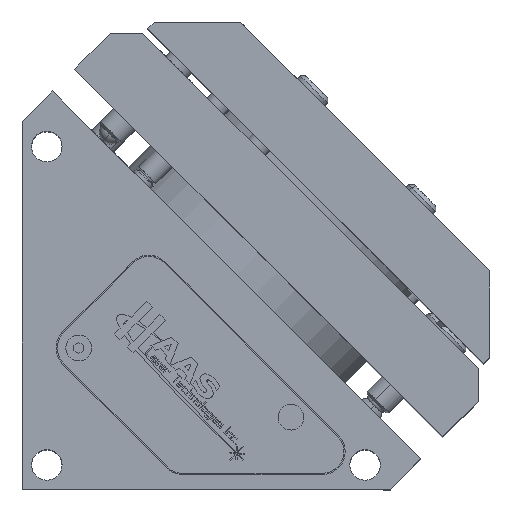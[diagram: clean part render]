
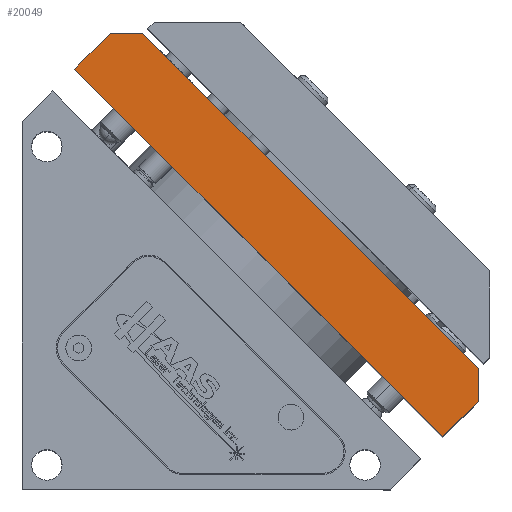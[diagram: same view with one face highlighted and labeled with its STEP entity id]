
A CAD part, top view. The second image highlights one B-rep face of the part: STEP entity #20049.
In plain terms, the highlighted planar face has unit normal (0, 0, 1).
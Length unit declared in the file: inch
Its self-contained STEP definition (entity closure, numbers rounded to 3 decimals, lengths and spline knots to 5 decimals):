
#54 = EDGE_CURVE ( 'Defeatured_21_13+Defeatured_21_10+Defeatured_21_6+Defeatured_21_8', #18490, #11923, #1252, .T. ) ;
#1017 = DIRECTION ( 'NONE',  ( -0.707, 0.707, 0. ) ) ;
#1145 = ORIENTED_EDGE ( 'NONE', *, *, #8355, .T. ) ;
#1252 = LINE ( 'NONE', #7275, #17940 ) ;
#1745 = CARTESIAN_POINT ( 'NONE',  ( 0.7195, 3.7247, 1.469 ) ) ;
#3298 = DIRECTION ( 'NONE',  ( 0., 1., 0. ) ) ;
#3431 = LINE ( 'NONE', #16114, #26921 ) ;
#3573 = CARTESIAN_POINT ( 'NONE',  ( 0.98466, 3.7247, 1.469 ) ) ;
#3827 = EDGE_LOOP ( 'NONE', ( #11283, #17456, #1145, #24200, #3928, #16271 ) ) ;
#3928 = ORIENTED_EDGE ( 'NONE', *, *, #27788, .F. ) ;
#4727 = CARTESIAN_POINT ( 'NONE',  ( 0.85208, 3.85728, 1.469 ) ) ;
#5319 = DIRECTION ( 'NONE',  ( -1., 0., 0. ) ) ;
#6684 = EDGE_CURVE ( 'Defeatured_21_7+Defeatured_21_13+Defeatured_21_9+Defeatured_21_11', #21052, #6820, #21111, .T. ) ;
#6820 = VERTEX_POINT ( 'NONE', #1745 ) ;
#7266 = VECTOR ( 'NONE', #27987, 39.37008 ) ;
#7275 = CARTESIAN_POINT ( 'NONE',  ( 3.7247, 0.98466, 1.469 ) ) ;
#7824 = DIRECTION ( 'NONE',  ( -0.707, -0.707, 0. ) ) ;
#7848 = VECTOR ( 'NONE', #5319, 39.37008 ) ;
#8055 = EDGE_CURVE ( 'Defeatured_21_6+Defeatured_21_13+Defeatured_21_10+Defeatured_21_9', #18490, #27606, #3431, .T. ) ;
#8355 = EDGE_CURVE ( 'Defeatured_21_13+Defeatured_21_11+Defeatured_21_8+Defeatured_21_7', #26967, #6820, #9200, .T. ) ;
#9092 = CARTESIAN_POINT ( 'NONE',  ( 3.7247, 0.7195, 1.469 ) ) ;
#9200 = LINE ( 'NONE', #27236, #7848 ) ;
#9210 = CARTESIAN_POINT ( 'NONE',  ( 3.43302, 0.42781, 1.469 ) ) ;
#10733 = PLANE ( 'NONE',  #17558 ) ;
#11283 = ORIENTED_EDGE ( 'NONE', *, *, #54, .T. ) ;
#11452 = DIRECTION ( 'NONE',  ( 0.707, 0.707, 0. ) ) ;
#11923 = VERTEX_POINT ( 'NONE', #17667 ) ;
#14146 = FACE_OUTER_BOUND ( 'NONE', #3827, .T. ) ;
#15040 = CARTESIAN_POINT ( 'NONE',  ( 0.42781, 3.43302, 1.469 ) ) ;
#15296 = EDGE_CURVE ( 'Defeatured_21_13+Defeatured_21_8+Defeatured_21_10+Defeatured_21_11', #11923, #26967, #16742, .T. ) ;
#16114 = CARTESIAN_POINT ( 'NONE',  ( 3.85728, 0.85208, 1.469 ) ) ;
#16271 = ORIENTED_EDGE ( 'NONE', *, *, #8055, .F. ) ;
#16742 = LINE ( 'NONE', #18342, #22536 ) ;
#16809 = LINE ( 'NONE', #27891, #7266 ) ;
#17456 = ORIENTED_EDGE ( 'NONE', *, *, #15296, .T. ) ;
#17558 = AXIS2_PLACEMENT_3D ( 'NONE', #28287, #23807, #26007 ) ;
#17667 = CARTESIAN_POINT ( 'NONE',  ( 3.7247, 0.98466, 1.469 ) ) ;
#17940 = VECTOR ( 'NONE', #3298, 39.37008 ) ;
#18342 = CARTESIAN_POINT ( 'NONE',  ( 3.94567, 0.76369, 1.469 ) ) ;
#18490 = VERTEX_POINT ( 'NONE', #9092 ) ;
#20049 = ADVANCED_FACE ( 'Defeatured_21_13', ( #14146 ), #10733, .F. ) ;
#21052 = VERTEX_POINT ( 'NONE', #15040 ) ;
#21111 = LINE ( 'NONE', #4727, #24192 ) ;
#22536 = VECTOR ( 'NONE', #1017, 39.37008 ) ;
#23807 = DIRECTION ( 'NONE',  ( 0., 0., -1. ) ) ;
#24192 = VECTOR ( 'NONE', #11452, 39.37008 ) ;
#24200 = ORIENTED_EDGE ( 'NONE', *, *, #6684, .F. ) ;
#26007 = DIRECTION ( 'NONE',  ( 0.707, -0.707, 0. ) ) ;
#26921 = VECTOR ( 'NONE', #7824, 39.37008 ) ;
#26967 = VERTEX_POINT ( 'NONE', #3573 ) ;
#27236 = CARTESIAN_POINT ( 'NONE',  ( 0.98466, 3.7247, 1.469 ) ) ;
#27606 = VERTEX_POINT ( 'NONE', #9210 ) ;
#27788 = EDGE_CURVE ( 'Defeatured_21_9+Defeatured_21_13+Defeatured_21_6+Defeatured_21_7', #27606, #21052, #16809, .T. ) ;
#27891 = CARTESIAN_POINT ( 'NONE',  ( 3.43302, 0.42781, 1.469 ) ) ;
#27987 = DIRECTION ( 'NONE',  ( -0.707, 0.707, 0. ) ) ;
#28287 = CARTESIAN_POINT ( 'NONE',  ( 3.07045, -0.11153, 1.469 ) ) ;
